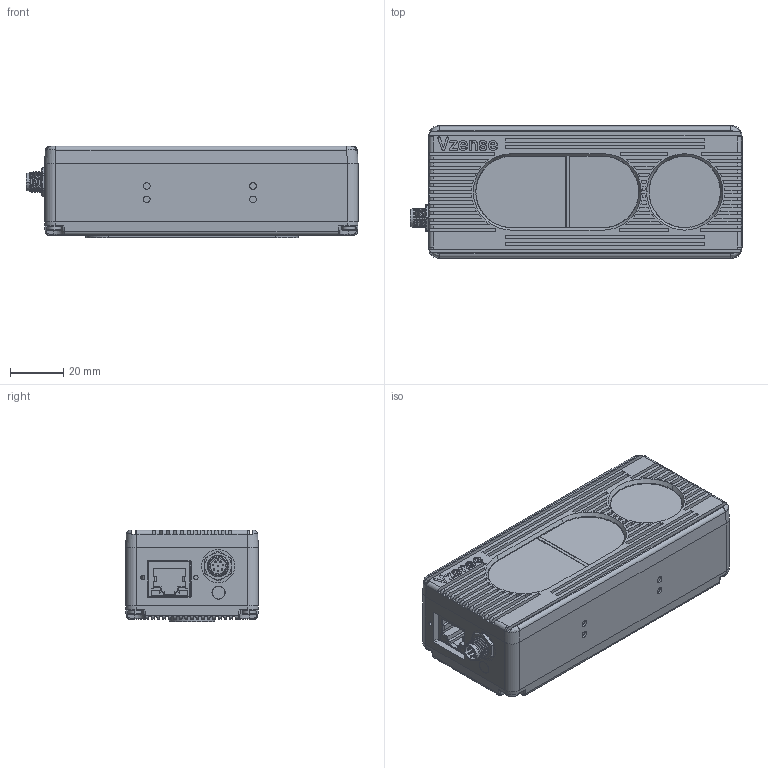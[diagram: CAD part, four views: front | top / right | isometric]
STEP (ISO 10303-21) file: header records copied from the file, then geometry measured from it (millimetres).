
FILE_DESCRIPTION((''),'2;1');
FILE_NAME('4ID_PART_DS86','2023-03-02T19:23:19',('Lincoln'),(''),'CREO PARAMETRIC BY PTC INC, 2018260','CREO PARAMETRIC BY PTC INC, 2018260','');
FILE_SCHEMA(('CONFIG_CONTROL_DESIGN','GEOMETRIC_VALIDATION_PROPERTIES_MIM'));
Products named in the file (1): 4ID_PART_DS86
Bounding box: 125 x 50 x 34.55 mm (x, y, z)
Volume: 186474 mm3; surface area: 34427.5 mm2
Topology: 1 solids, 15 shells, 1541 faces, 4245 edges, 2751 vertices
Faces by surface type: plane 709, cylinder 466, extrusion 168, bspline 83, cone 66, torus 26, sphere 23
Entity records: 88348 total; most frequent: CARTESIAN_POINT 38195, ORIENTED_EDGE 8396, DIRECTION 6597, PRESENTATION_STYLE_ASSIGNMENT 4217, STYLED_ITEM 4199, CURVE_STYLE 4198, EDGE_CURVE 4198, VERTEX_POINT 2751
